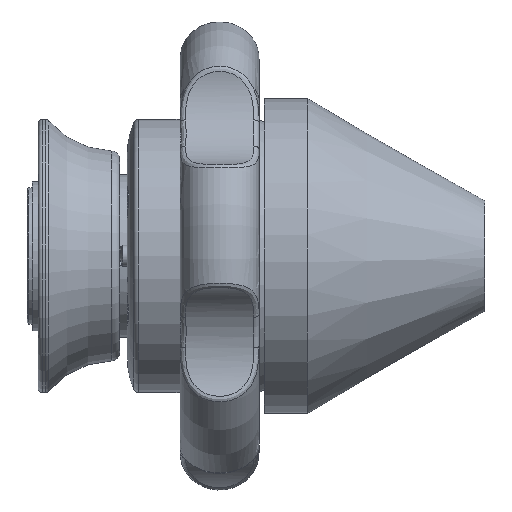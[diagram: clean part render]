
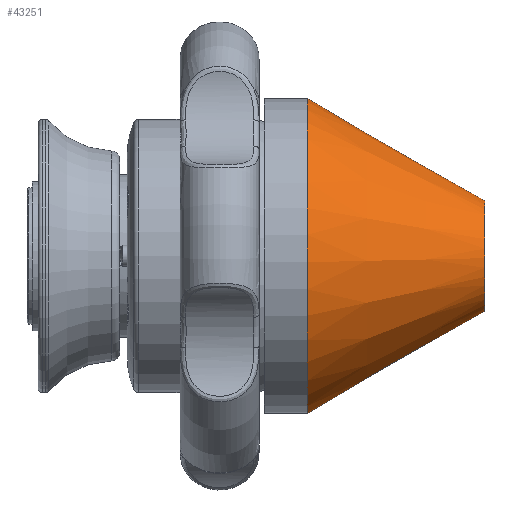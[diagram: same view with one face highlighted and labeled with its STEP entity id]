
A CAD part, top view. The second image highlights one B-rep face of the part: STEP entity #43251.
In plain terms, the highlighted conical face has half-angle 30 degrees and reference radius 30 mm.
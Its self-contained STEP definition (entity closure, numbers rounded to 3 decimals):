
#2013 = EDGE_CURVE ( 'NONE', #87327, #87327, #88441, .T. ) ;
#9683 = CARTESIAN_POINT ( 'NONE',  ( 54.25, -3.997, 9.71 ) ) ;
#18336 = CARTESIAN_POINT ( 'NONE',  ( 20.475, 0., 0. ) ) ;
#26620 = CONICAL_SURFACE ( 'NONE', #51803, 30., 0.524 ) ;
#28026 = EDGE_LOOP ( 'NONE', ( #64981 ) ) ;
#28370 = VERTEX_POINT ( 'NONE', #90134 ) ;
#30561 = DIRECTION ( 'NONE',  ( -1., 0., 0. ) ) ;
#40658 = DIRECTION ( 'NONE',  ( 0., -0.381, 0.925 ) ) ;
#40840 = FACE_BOUND ( 'NONE', #28026, .T. ) ;
#43202 = CARTESIAN_POINT ( 'NONE',  ( 54.25, 0., 0. ) ) ;
#43251 = ADVANCED_FACE ( 'NONE', ( #50086, #40840 ), #26620, .T. ) ;
#46956 = AXIS2_PLACEMENT_3D ( 'NONE', #43202, #49248, #71079 ) ;
#49248 = DIRECTION ( 'NONE',  ( -1., 0., 0. ) ) ;
#50086 = FACE_OUTER_BOUND ( 'NONE', #51845, .T. ) ;
#51803 = AXIS2_PLACEMENT_3D ( 'NONE', #56150, #30561, #78930 ) ;
#51845 = EDGE_LOOP ( 'NONE', ( #89542 ) ) ;
#56150 = CARTESIAN_POINT ( 'NONE',  ( 20.475, 0., 0. ) ) ;
#56229 = AXIS2_PLACEMENT_3D ( 'NONE', #18336, #75556, #40658 ) ;
#64981 = ORIENTED_EDGE ( 'NONE', *, *, #2013, .T. ) ;
#69571 = CIRCLE ( 'NONE', #56229, 30. ) ;
#71079 = DIRECTION ( 'NONE',  ( 0., -0.381, 0.925 ) ) ;
#74065 = EDGE_CURVE ( 'NONE', #28370, #28370, #69571, .T. ) ;
#75556 = DIRECTION ( 'NONE',  ( 1., 0., 0. ) ) ;
#78930 = DIRECTION ( 'NONE',  ( 0., -0.381, 0.925 ) ) ;
#87327 = VERTEX_POINT ( 'NONE', #9683 ) ;
#88441 = CIRCLE ( 'NONE', #46956, 10.5 ) ;
#89542 = ORIENTED_EDGE ( 'NONE', *, *, #74065, .T. ) ;
#90134 = CARTESIAN_POINT ( 'NONE',  ( 20.475, -11.419, 27.742 ) ) ;
